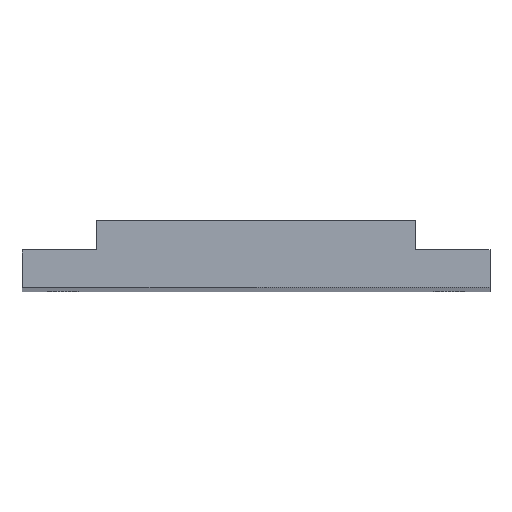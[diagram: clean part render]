
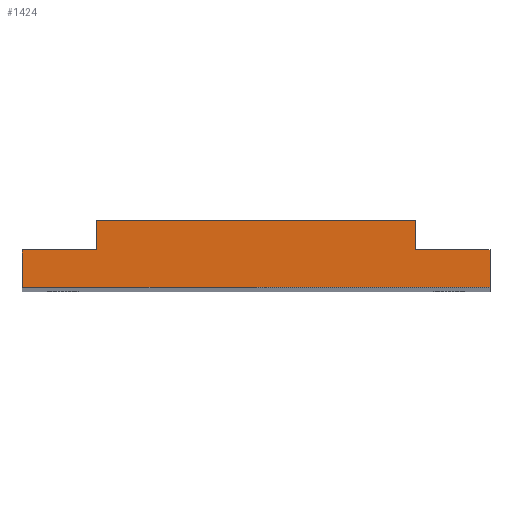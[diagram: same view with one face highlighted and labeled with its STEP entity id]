
A CAD part, top view. The second image highlights one B-rep face of the part: STEP entity #1424.
In plain terms, the highlighted planar face has unit normal (0, 0, 1).
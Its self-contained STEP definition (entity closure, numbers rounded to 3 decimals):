
#16 = VECTOR ( 'NONE', #768, 1000. ) ;
#55 = ORIENTED_EDGE ( 'NONE', *, *, #444, .T. ) ;
#94 = ORIENTED_EDGE ( 'NONE', *, *, #1603, .T. ) ;
#96 = VERTEX_POINT ( 'NONE', #1263 ) ;
#103 = VECTOR ( 'NONE', #1507, 1000. ) ;
#112 = ORIENTED_EDGE ( 'NONE', *, *, #1344, .F. ) ;
#128 = EDGE_CURVE ( 'NONE', #96, #200, #336, .T. ) ;
#173 = LINE ( 'NONE', #1100, #933 ) ;
#183 = VERTEX_POINT ( 'NONE', #1002 ) ;
#200 = VERTEX_POINT ( 'NONE', #438 ) ;
#276 = DIRECTION ( 'NONE',  ( 0., 0., 1. ) ) ;
#292 = ORIENTED_EDGE ( 'NONE', *, *, #459, .T. ) ;
#336 = LINE ( 'NONE', #1154, #799 ) ;
#394 = DIRECTION ( 'NONE',  ( 0., 1., 0. ) ) ;
#398 = LINE ( 'NONE', #1359, #445 ) ;
#438 = CARTESIAN_POINT ( 'NONE',  ( 37.5, -3., 420. ) ) ;
#444 = EDGE_CURVE ( 'NONE', #200, #1199, #173, .T. ) ;
#445 = VECTOR ( 'NONE', #1794, 1000. ) ;
#450 = ORIENTED_EDGE ( 'NONE', *, *, #1616, .F. ) ;
#459 = EDGE_CURVE ( 'NONE', #476, #96, #1643, .T. ) ;
#467 = CARTESIAN_POINT ( 'NONE',  ( -37.5, 3., 420. ) ) ;
#476 = VERTEX_POINT ( 'NONE', #1141 ) ;
#533 = ORIENTED_EDGE ( 'NONE', *, *, #128, .T. ) ;
#562 = CARTESIAN_POINT ( 'NONE',  ( 25.6, 7.8, 420. ) ) ;
#626 = CARTESIAN_POINT ( 'NONE',  ( -25.6, 7.8, 420. ) ) ;
#645 = EDGE_CURVE ( 'NONE', #1673, #183, #398, .T. ) ;
#701 = DIRECTION ( 'NONE',  ( 1., 0., 0. ) ) ;
#748 = CARTESIAN_POINT ( 'NONE',  ( 37.5, 3., 420. ) ) ;
#751 = LINE ( 'NONE', #1361, #103 ) ;
#768 = DIRECTION ( 'NONE',  ( 0., 1., 0. ) ) ;
#799 = VECTOR ( 'NONE', #1597, 1000. ) ;
#831 = PLANE ( 'NONE',  #1474 ) ;
#933 = VECTOR ( 'NONE', #394, 1000. ) ;
#970 = VECTOR ( 'NONE', #1397, 1000. ) ;
#1002 = CARTESIAN_POINT ( 'NONE',  ( 25.6, 3., 420. ) ) ;
#1037 = CARTESIAN_POINT ( 'NONE',  ( 25.6, 7.8, 420. ) ) ;
#1054 = VERTEX_POINT ( 'NONE', #1601 ) ;
#1100 = CARTESIAN_POINT ( 'NONE',  ( 37.5, 3., 420. ) ) ;
#1141 = CARTESIAN_POINT ( 'NONE',  ( -37.5, 3., 420. ) ) ;
#1154 = CARTESIAN_POINT ( 'NONE',  ( -37.5, -3., 420. ) ) ;
#1179 = DIRECTION ( 'NONE',  ( -1., 0., 0. ) ) ;
#1199 = VERTEX_POINT ( 'NONE', #748 ) ;
#1249 = ORIENTED_EDGE ( 'NONE', *, *, #645, .F. ) ;
#1263 = CARTESIAN_POINT ( 'NONE',  ( -37.5, -3., 420. ) ) ;
#1344 = EDGE_CURVE ( 'NONE', #1714, #1673, #1453, .T. ) ;
#1359 = CARTESIAN_POINT ( 'NONE',  ( 25.6, 3., 420. ) ) ;
#1361 = CARTESIAN_POINT ( 'NONE',  ( -37.5, 3., 420. ) ) ;
#1362 = LINE ( 'NONE', #467, #1703 ) ;
#1376 = ORIENTED_EDGE ( 'NONE', *, *, #1818, .T. ) ;
#1397 = DIRECTION ( 'NONE',  ( 0., -1., 0. ) ) ;
#1421 = CARTESIAN_POINT ( 'NONE',  ( -37.5, 3., 420. ) ) ;
#1424 = ADVANCED_FACE ( 'NONE', ( #1726 ), #831, .T. ) ;
#1431 = CARTESIAN_POINT ( 'NONE',  ( 0., 0., 420. ) ) ;
#1453 = LINE ( 'NONE', #562, #1614 ) ;
#1474 = AXIS2_PLACEMENT_3D ( 'NONE', #1431, #276, #1561 ) ;
#1507 = DIRECTION ( 'NONE',  ( -1., 0., 0. ) ) ;
#1561 = DIRECTION ( 'NONE',  ( 1., 0., 0. ) ) ;
#1597 = DIRECTION ( 'NONE',  ( 1., 0., 0. ) ) ;
#1601 = CARTESIAN_POINT ( 'NONE',  ( -25.6, 3., 420. ) ) ;
#1603 = EDGE_CURVE ( 'NONE', #1199, #183, #1362, .T. ) ;
#1614 = VECTOR ( 'NONE', #701, 1000. ) ;
#1616 = EDGE_CURVE ( 'NONE', #1054, #1714, #1862, .T. ) ;
#1627 = CARTESIAN_POINT ( 'NONE',  ( -25.6, 3., 420. ) ) ;
#1643 = LINE ( 'NONE', #1421, #970 ) ;
#1673 = VERTEX_POINT ( 'NONE', #1037 ) ;
#1703 = VECTOR ( 'NONE', #1179, 1000. ) ;
#1714 = VERTEX_POINT ( 'NONE', #626 ) ;
#1726 = FACE_OUTER_BOUND ( 'NONE', #1766, .T. ) ;
#1766 = EDGE_LOOP ( 'NONE', ( #55, #94, #1249, #112, #450, #1376, #292, #533 ) ) ;
#1794 = DIRECTION ( 'NONE',  ( 0., -1., 0. ) ) ;
#1818 = EDGE_CURVE ( 'NONE', #1054, #476, #751, .T. ) ;
#1862 = LINE ( 'NONE', #1627, #16 ) ;
